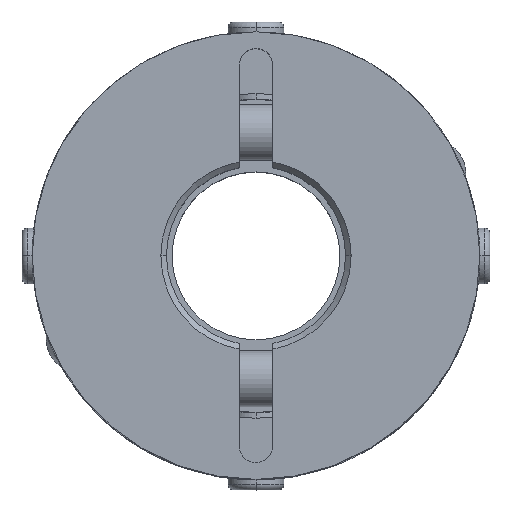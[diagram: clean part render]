
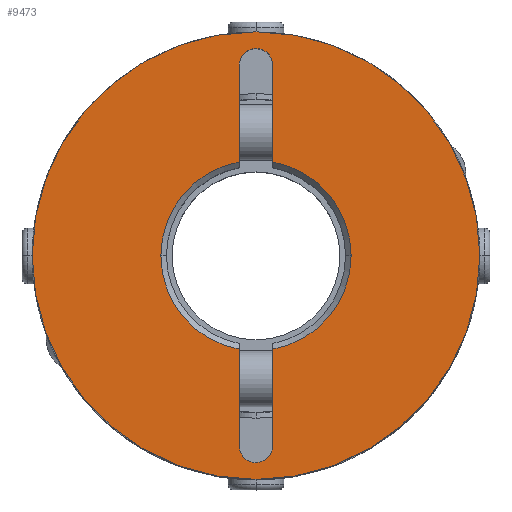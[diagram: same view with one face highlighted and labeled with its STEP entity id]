
A CAD part, top view. The second image highlights one B-rep face of the part: STEP entity #9473.
In plain terms, the highlighted planar face has unit normal (0, 0, 1).
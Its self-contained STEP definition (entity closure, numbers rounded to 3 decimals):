
#807=CARTESIAN_POINT('',(-1.061,18.061,20.0));
#808=VERTEX_POINT('',#807);
#824=CARTESIAN_POINT('',(1.5,17.,20.0));
#825=VERTEX_POINT('',#824);
#832=CARTESIAN_POINT('',(0.,17.,20.0));
#833=DIRECTION('',(0.0,0.0,1.));
#834=DIRECTION('',(0.707,0.707,0.0));
#835=AXIS2_PLACEMENT_3D('',#832,#833,#834);
#836=CIRCLE('',#835,1.5);
#837=EDGE_CURVE('',#825,#808,#836,.T.);
#849=CARTESIAN_POINT('',(1.061,-18.061,20.0));
#850=VERTEX_POINT('',#849);
#866=CARTESIAN_POINT('',(-1.5,-17.,20.0));
#867=VERTEX_POINT('',#866);
#874=CARTESIAN_POINT('',(0.0,-17.,20.0));
#875=DIRECTION('',(0.0,0.0,1.0));
#876=DIRECTION('',(-0.707,-0.707,0.0));
#877=AXIS2_PLACEMENT_3D('',#874,#875,#876);
#878=CIRCLE('',#877,1.5);
#879=EDGE_CURVE('',#867,#850,#878,.T.);
#980=CARTESIAN_POINT('',(-8.5,0.,20.0));
#981=VERTEX_POINT('',#980);
#988=CARTESIAN_POINT('',(-1.5,-8.367,20.0));
#989=VERTEX_POINT('',#988);
#990=CARTESIAN_POINT('',(0.0,0.0,20.0));
#991=DIRECTION('',(0.0,0.0,1.0));
#992=DIRECTION('',(-1.0,0.0,0.0));
#993=AXIS2_PLACEMENT_3D('',#990,#991,#992);
#994=CIRCLE('',#993,8.5);
#995=EDGE_CURVE('',#981,#989,#994,.T.);
#1019=CARTESIAN_POINT('',(8.5,0.,20.0));
#1020=VERTEX_POINT('',#1019);
#1027=CARTESIAN_POINT('',(1.5,8.367,20.0));
#1028=VERTEX_POINT('',#1027);
#1029=CARTESIAN_POINT('',(0.0,0.0,20.0));
#1030=DIRECTION('',(0.0,0.0,1.0));
#1031=DIRECTION('',(1.0,0.0,0.0));
#1032=AXIS2_PLACEMENT_3D('',#1029,#1030,#1031);
#1033=CIRCLE('',#1032,8.5);
#1034=EDGE_CURVE('',#1020,#1028,#1033,.T.);
#1511=CARTESIAN_POINT('',(-20.0,0.,20.0));
#1512=VERTEX_POINT('',#1511);
#1519=CARTESIAN_POINT('',(20.0,0.0,20.0));
#1520=VERTEX_POINT('',#1519);
#1521=CARTESIAN_POINT('',(0.0,0.0,20.0));
#1522=DIRECTION('',(0.0,0.0,-1.0));
#1523=DIRECTION('',(1.0,0.0,0.0));
#1524=AXIS2_PLACEMENT_3D('',#1521,#1522,#1523);
#1525=CIRCLE('',#1524,20.0);
#1526=EDGE_CURVE('',#1512,#1520,#1525,.T.);
#8802=CARTESIAN_POINT('',(0.0,0.0,20.0));
#8803=DIRECTION('',(0.0,0.0,-1.0));
#8804=DIRECTION('',(1.0,0.0,0.0));
#8805=AXIS2_PLACEMENT_3D('',#8802,#8803,#8804);
#8806=CIRCLE('',#8805,20.0);
#8807=EDGE_CURVE('',#1520,#1512,#8806,.T.);
#9284=CARTESIAN_POINT('',(-1.5,17.,20.0));
#9285=VERTEX_POINT('',#9284);
#9292=CARTESIAN_POINT('',(-1.5,8.367,20.0));
#9293=VERTEX_POINT('',#9292);
#9294=CARTESIAN_POINT('',(-1.5,8.367,20.0));
#9295=DIRECTION('',(0.0,1.0,0.0));
#9296=VECTOR('',#9295,8.633);
#9297=LINE('',#9294,#9296);
#9298=EDGE_CURVE('',#9293,#9285,#9297,.T.);
#9373=CARTESIAN_POINT('',(1.5,17.,20.0));
#9374=DIRECTION('',(0.0,-1.0,0.0));
#9375=VECTOR('',#9374,8.633);
#9376=LINE('',#9373,#9375);
#9377=EDGE_CURVE('',#825,#1028,#9376,.T.);
#9395=CARTESIAN_POINT('',(1.5,-8.367,20.0));
#9396=VERTEX_POINT('',#9395);
#9410=CARTESIAN_POINT('',(0.0,0.0,20.0));
#9411=DIRECTION('',(0.0,0.0,1.0));
#9412=DIRECTION('',(1.0,0.0,0.0));
#9413=AXIS2_PLACEMENT_3D('',#9410,#9411,#9412);
#9414=CIRCLE('',#9413,8.5);
#9415=EDGE_CURVE('',#9396,#1020,#9414,.T.);
#9420=CARTESIAN_POINT('',(1.818,0.,20.0));
#9421=DIRECTION('',(0.0,0.0,1.0));
#9422=DIRECTION('',(1.0,0.0,0.0));
#9423=AXIS2_PLACEMENT_3D('',#9420,#9421,#9422);
#9424=PLANE('',#9423);
#9425=ORIENTED_EDGE('',*,*,#8807,.F.);
#9426=ORIENTED_EDGE('',*,*,#1526,.F.);
#9427=EDGE_LOOP('',(#9425,#9426));
#9428=FACE_OUTER_BOUND('',#9427,.T.);
#9429=ORIENTED_EDGE('',*,*,#9415,.F.);
#9430=CARTESIAN_POINT('',(1.5,-17.,20.0));
#9431=VERTEX_POINT('',#9430);
#9432=CARTESIAN_POINT('',(1.5,-8.367,20.0));
#9433=DIRECTION('',(0.0,-1.0,0.0));
#9434=VECTOR('',#9433,8.633);
#9435=LINE('',#9432,#9434);
#9436=EDGE_CURVE('',#9396,#9431,#9435,.T.);
#9437=ORIENTED_EDGE('',*,*,#9436,.T.);
#9438=CARTESIAN_POINT('',(0.0,-17.,20.0));
#9439=DIRECTION('',(0.0,0.0,1.0));
#9440=DIRECTION('',(-0.707,-0.707,0.0));
#9441=AXIS2_PLACEMENT_3D('',#9438,#9439,#9440);
#9442=CIRCLE('',#9441,1.5);
#9443=EDGE_CURVE('',#850,#9431,#9442,.T.);
#9444=ORIENTED_EDGE('',*,*,#9443,.F.);
#9445=ORIENTED_EDGE('',*,*,#879,.F.);
#9446=CARTESIAN_POINT('',(-1.5,-17.,20.0));
#9447=DIRECTION('',(0.0,1.0,0.0));
#9448=VECTOR('',#9447,8.633);
#9449=LINE('',#9446,#9448);
#9450=EDGE_CURVE('',#867,#989,#9449,.T.);
#9451=ORIENTED_EDGE('',*,*,#9450,.T.);
#9452=ORIENTED_EDGE('',*,*,#995,.F.);
#9453=CARTESIAN_POINT('',(0.0,0.0,20.0));
#9454=DIRECTION('',(0.0,0.0,1.0));
#9455=DIRECTION('',(-1.0,0.0,0.0));
#9456=AXIS2_PLACEMENT_3D('',#9453,#9454,#9455);
#9457=CIRCLE('',#9456,8.5);
#9458=EDGE_CURVE('',#9293,#981,#9457,.T.);
#9459=ORIENTED_EDGE('',*,*,#9458,.F.);
#9460=ORIENTED_EDGE('',*,*,#9298,.T.);
#9461=CARTESIAN_POINT('',(0.,17.,20.0));
#9462=DIRECTION('',(0.0,0.0,1.));
#9463=DIRECTION('',(0.707,0.707,0.0));
#9464=AXIS2_PLACEMENT_3D('',#9461,#9462,#9463);
#9465=CIRCLE('',#9464,1.5);
#9466=EDGE_CURVE('',#808,#9285,#9465,.T.);
#9467=ORIENTED_EDGE('',*,*,#9466,.F.);
#9468=ORIENTED_EDGE('',*,*,#837,.F.);
#9469=ORIENTED_EDGE('',*,*,#9377,.T.);
#9470=ORIENTED_EDGE('',*,*,#1034,.F.);
#9471=EDGE_LOOP('',(#9429,#9437,#9444,#9445,#9451,#9452,#9459,#9460,#9467,#9468,#9469,#9470));
#9472=FACE_BOUND('',#9471,.T.);
#9473=ADVANCED_FACE('',(#9428,#9472),#9424,.T.);
